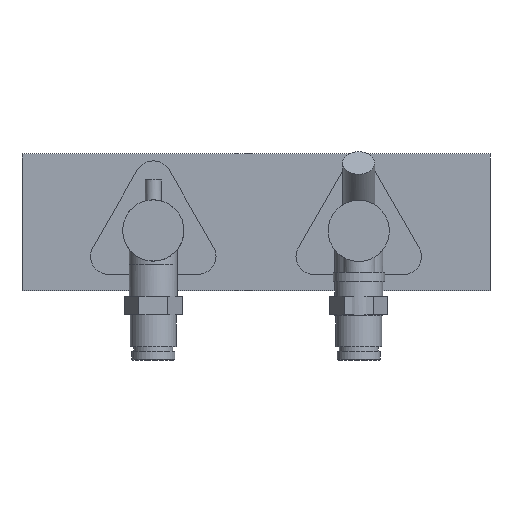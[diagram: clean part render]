
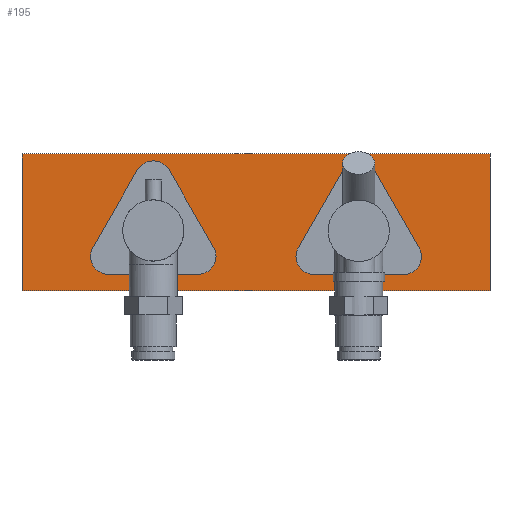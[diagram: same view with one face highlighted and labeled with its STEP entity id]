
A CAD part, front view. The second image highlights one B-rep face of the part: STEP entity #195.
In plain terms, the highlighted planar face has unit normal (0, -1, 0).
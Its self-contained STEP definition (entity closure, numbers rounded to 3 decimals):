
#195=ADVANCED_FACE('',(#295),#296,.T.);
#295=FACE_OUTER_BOUND('',#501,.T.);
#296=PLANE('',#502);
#501=EDGE_LOOP('',(#712,#713,#714,#715));
#502=AXIS2_PLACEMENT_3D('',#716,#717,#718);
#712=ORIENTED_EDGE('',*,*,#1227,.T.);
#713=ORIENTED_EDGE('',*,*,#1228,.T.);
#714=ORIENTED_EDGE('',*,*,#1225,.F.);
#715=ORIENTED_EDGE('',*,*,#1229,.T.);
#716=CARTESIAN_POINT('',(102.5,0.0,30.0));
#717=DIRECTION('',(0.0,-1.0,0.0));
#718=DIRECTION('',(0.0,0.0,-1.0));
#1225=EDGE_CURVE('',#1365,#1367,#1368,.T.);
#1227=EDGE_CURVE('',#1370,#1371,#1372,.T.);
#1228=EDGE_CURVE('',#1371,#1367,#1373,.T.);
#1229=EDGE_CURVE('',#1365,#1370,#1374,.T.);
#1365=VERTEX_POINT('',#1586);
#1367=VERTEX_POINT('',#1589);
#1368=LINE('',#1590,#1591);
#1370=VERTEX_POINT('',#1594);
#1371=VERTEX_POINT('',#1595);
#1372=LINE('',#1596,#1597);
#1373=LINE('',#1598,#1599);
#1374=LINE('',#1600,#1601);
#1586=CARTESIAN_POINT('',(102.5,0.0,-30.0));
#1589=CARTESIAN_POINT('',(-102.5,0.0,-30.0));
#1590=CARTESIAN_POINT('',(102.5,0.0,-30.0));
#1591=VECTOR('',#2273,1.0);
#1594=CARTESIAN_POINT('',(102.5,0.0,30.0));
#1595=CARTESIAN_POINT('',(-102.5,0.0,30.0));
#1596=CARTESIAN_POINT('',(102.5,0.0,30.0));
#1597=VECTOR('',#2275,1.0);
#1598=CARTESIAN_POINT('',(-102.5,0.0,30.0));
#1599=VECTOR('',#2276,1.0);
#1600=CARTESIAN_POINT('',(102.5,0.0,-30.0));
#1601=VECTOR('',#2277,1.0);
#2273=DIRECTION('',(-1.0,0.0,0.0));
#2275=DIRECTION('',(-1.0,0.0,0.0));
#2276=DIRECTION('',(0.0,0.0,-1.0));
#2277=DIRECTION('',(0.0,0.0,1.0));
